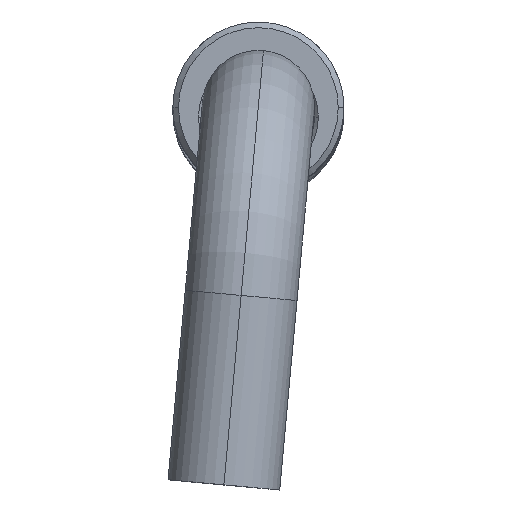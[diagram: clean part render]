
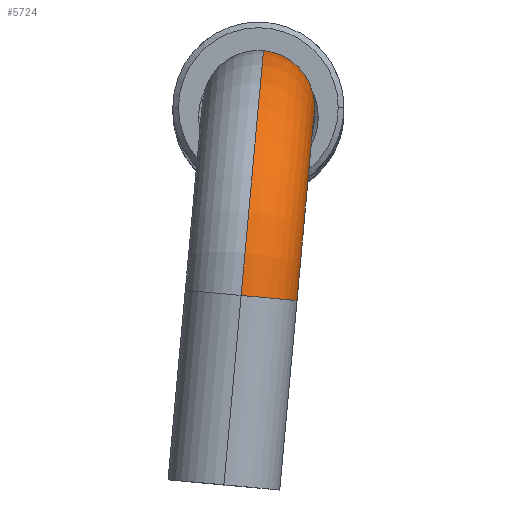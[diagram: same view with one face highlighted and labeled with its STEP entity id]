
A CAD part, top view. The second image highlights one B-rep face of the part: STEP entity #5724.
In plain terms, the highlighted toroidal (fillet/blend) face has major radius 10 mm and minor radius 2.95 mm.
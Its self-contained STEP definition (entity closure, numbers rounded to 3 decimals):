
#144 = CARTESIAN_POINT ( 'NONE',  ( 2.95, 0., -10. ) ) ;
#308 = DIRECTION ( 'NONE',  ( 0., 0., -1. ) ) ;
#810 = ORIENTED_EDGE ( 'NONE', *, *, #2876, .F. ) ;
#981 = EDGE_CURVE ( 'NONE', #5773, #5869, #8217, .T. ) ;
#1343 = CIRCLE ( 'NONE', #2935, 2.95 ) ;
#1457 = CARTESIAN_POINT ( 'NONE',  ( -2.95, 0., -10. ) ) ;
#1603 = AXIS2_PLACEMENT_3D ( 'NONE', #6335, #7592, #2696 ) ;
#1807 = DIRECTION ( 'NONE',  ( 0., 0., 1. ) ) ;
#1911 = CARTESIAN_POINT ( 'NONE',  ( 10., 0., -17.05 ) ) ;
#2382 = EDGE_CURVE ( 'NONE', #5219, #7589, #2420, .T. ) ;
#2420 = CIRCLE ( 'NONE', #4857, 12.95 ) ;
#2696 = DIRECTION ( 'NONE',  ( 0., 0., -1. ) ) ;
#2737 = EDGE_LOOP ( 'NONE', ( #5903, #810, #3819, #5764 ) ) ;
#2876 = EDGE_CURVE ( 'NONE', #5773, #5219, #1343, .T. ) ;
#2879 = CARTESIAN_POINT ( 'NONE',  ( 10., 0., -10. ) ) ;
#2935 = AXIS2_PLACEMENT_3D ( 'NONE', #6978, #4750, #5194 ) ;
#3819 = ORIENTED_EDGE ( 'NONE', *, *, #981, .T. ) ;
#4044 = DIRECTION ( 'NONE',  ( 0., -1., 0. ) ) ;
#4054 = CARTESIAN_POINT ( 'NONE',  ( 10., 0., -20. ) ) ;
#4125 = DIRECTION ( 'NONE',  ( 0., -1., 0. ) ) ;
#4463 = FACE_OUTER_BOUND ( 'NONE', #2737, .T. ) ;
#4750 = DIRECTION ( 'NONE',  ( 0., 0., 1. ) ) ;
#4781 = AXIS2_PLACEMENT_3D ( 'NONE', #4054, #5345, #1807 ) ;
#4857 = AXIS2_PLACEMENT_3D ( 'NONE', #6165, #4044, #308 ) ;
#5194 = DIRECTION ( 'NONE',  ( 1., 0., 0. ) ) ;
#5219 = VERTEX_POINT ( 'NONE', #1457 ) ;
#5345 = DIRECTION ( 'NONE',  ( -1., 0., 0. ) ) ;
#5724 = ADVANCED_FACE ( 'NONE', ( #4463 ), #6963, .T. ) ;
#5764 = ORIENTED_EDGE ( 'NONE', *, *, #6510, .T. ) ;
#5773 = VERTEX_POINT ( 'NONE', #144 ) ;
#5869 = VERTEX_POINT ( 'NONE', #1911 ) ;
#5903 = ORIENTED_EDGE ( 'NONE', *, *, #2382, .F. ) ;
#6017 = DIRECTION ( 'NONE',  ( 0., 0., -1. ) ) ;
#6165 = CARTESIAN_POINT ( 'NONE',  ( 10., 0., -10. ) ) ;
#6335 = CARTESIAN_POINT ( 'NONE',  ( 10., 0., -10. ) ) ;
#6510 = EDGE_CURVE ( 'NONE', #5869, #7589, #7618, .T. ) ;
#6963 = TOROIDAL_SURFACE ( 'NONE', #1603, 10., 2.95 ) ;
#6978 = CARTESIAN_POINT ( 'NONE',  ( 0., 0., -10. ) ) ;
#7083 = AXIS2_PLACEMENT_3D ( 'NONE', #2879, #4125, #6017 ) ;
#7589 = VERTEX_POINT ( 'NONE', #8176 ) ;
#7592 = DIRECTION ( 'NONE',  ( 0., -1., 0. ) ) ;
#7618 = CIRCLE ( 'NONE', #4781, 2.95 ) ;
#8176 = CARTESIAN_POINT ( 'NONE',  ( 10., 0., -22.95 ) ) ;
#8217 = CIRCLE ( 'NONE', #7083, 7.05 ) ;
